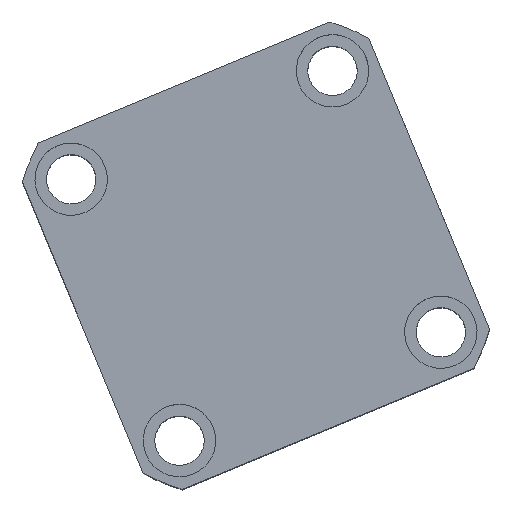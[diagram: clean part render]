
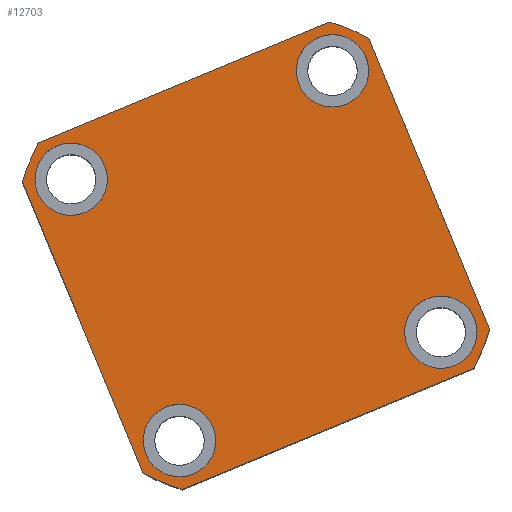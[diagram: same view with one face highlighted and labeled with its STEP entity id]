
A CAD part, top view. The second image highlights one B-rep face of the part: STEP entity #12703.
In plain terms, the highlighted planar face has unit normal (0, 0, 1) as drawn and (0, 0, -1) by its records, which use the part's own axes.
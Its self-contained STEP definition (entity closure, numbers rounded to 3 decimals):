
#51 = VERTEX_POINT ( 'NONE', #4359 ) ;
#120 = CARTESIAN_POINT ( 'NONE',  ( -54., 43., 0. ) ) ;
#354 = AXIS2_PLACEMENT_3D ( 'NONE', #8864, #13660, #6519 ) ;
#643 = DIRECTION ( 'NONE',  ( 1., 0., 0. ) ) ;
#843 = EDGE_CURVE ( 'NONE', #15231, #10546, #7830, .T. ) ;
#865 = VERTEX_POINT ( 'NONE', #120 ) ;
#907 = AXIS2_PLACEMENT_3D ( 'NONE', #12755, #5626, #13915 ) ;
#1021 = ORIENTED_EDGE ( 'NONE', *, *, #11784, .F. ) ;
#1203 = ORIENTED_EDGE ( 'NONE', *, *, #13399, .F. ) ;
#1340 = DIRECTION ( 'NONE',  ( 0., 0., 1. ) ) ;
#1587 = CARTESIAN_POINT ( 'NONE',  ( -54., -43., 0. ) ) ;
#1596 = LINE ( 'NONE', #8076, #10567 ) ;
#1611 = DIRECTION ( 'NONE',  ( 0., 0., -1. ) ) ;
#1657 = AXIS2_PLACEMENT_3D ( 'NONE', #14724, #7603, #643 ) ;
#1730 = CARTESIAN_POINT ( 'NONE',  ( -43., -43., 0. ) ) ;
#1859 = LINE ( 'NONE', #8081, #10819 ) ;
#1890 = DIRECTION ( 'NONE',  ( 0., 0., 1. ) ) ;
#1913 = CARTESIAN_POINT ( 'NONE',  ( 32., 43., 0. ) ) ;
#1950 = ORIENTED_EDGE ( 'NONE', *, *, #14813, .F. ) ;
#2035 = EDGE_LOOP ( 'NONE', ( #3112, #15002 ) ) ;
#2057 = FACE_OUTER_BOUND ( 'NONE', #11893, .T. ) ;
#2124 = ORIENTED_EDGE ( 'NONE', *, *, #14850, .F. ) ;
#2223 = CARTESIAN_POINT ( 'NONE',  ( -43., -43., 0. ) ) ;
#2394 = EDGE_CURVE ( 'NONE', #51, #10520, #8067, .T. ) ;
#2408 = FACE_BOUND ( 'NONE', #2035, .T. ) ;
#2685 = ORIENTED_EDGE ( 'NONE', *, *, #7379, .F. ) ;
#2691 = EDGE_LOOP ( 'NONE', ( #2685, #5816 ) ) ;
#3059 = CARTESIAN_POINT ( 'NONE',  ( 43., 43., 0. ) ) ;
#3112 = ORIENTED_EDGE ( 'NONE', *, *, #6868, .F. ) ;
#3154 = EDGE_LOOP ( 'NONE', ( #2124, #1021 ) ) ;
#3298 = CIRCLE ( 'NONE', #12049, 11. ) ;
#3403 = DIRECTION ( 'NONE',  ( -1., 0., 0. ) ) ;
#3407 = VERTEX_POINT ( 'NONE', #8620 ) ;
#3477 = CIRCLE ( 'NONE', #9170, 11. ) ;
#3508 = DIRECTION ( 'NONE',  ( 0., 0., -1. ) ) ;
#3517 = DIRECTION ( 'NONE',  ( 0., 1., 0. ) ) ;
#3664 = CARTESIAN_POINT ( 'NONE',  ( 43., -43., 0. ) ) ;
#4226 = DIRECTION ( 'NONE',  ( -1., 0., 0. ) ) ;
#4359 = CARTESIAN_POINT ( 'NONE',  ( 47.971, -57., 0. ) ) ;
#4582 = DIRECTION ( 'NONE',  ( 0., 0., 1. ) ) ;
#4629 = CARTESIAN_POINT ( 'NONE',  ( 0., 0., 0. ) ) ;
#4757 = CIRCLE ( 'NONE', #12533, 74.5 ) ;
#4820 = DIRECTION ( 'NONE',  ( -1., 0., 0. ) ) ;
#4887 = EDGE_LOOP ( 'NONE', ( #7597, #10391 ) ) ;
#4960 = AXIS2_PLACEMENT_3D ( 'NONE', #10509, #3508, #11719 ) ;
#4975 = CARTESIAN_POINT ( 'NONE',  ( -43., 43., 0. ) ) ;
#5000 = CARTESIAN_POINT ( 'NONE',  ( -47.971, 57., 0. ) ) ;
#5131 = FACE_BOUND ( 'NONE', #4887, .T. ) ;
#5317 = CIRCLE ( 'NONE', #1657, 74.5 ) ;
#5427 = VERTEX_POINT ( 'NONE', #6396 ) ;
#5470 = EDGE_CURVE ( 'NONE', #14060, #10685, #4757, .T. ) ;
#5566 = CARTESIAN_POINT ( 'NONE',  ( -57., 47.971, 0. ) ) ;
#5578 = AXIS2_PLACEMENT_3D ( 'NONE', #4629, #4582, #5703 ) ;
#5626 = DIRECTION ( 'NONE',  ( 0., 0., -1. ) ) ;
#5703 = DIRECTION ( 'NONE',  ( 1., 0., 0. ) ) ;
#5743 = CARTESIAN_POINT ( 'NONE',  ( -57., -47.971, 0. ) ) ;
#5764 = ORIENTED_EDGE ( 'NONE', *, *, #8740, .F. ) ;
#5816 = ORIENTED_EDGE ( 'NONE', *, *, #11058, .F. ) ;
#5921 = VERTEX_POINT ( 'NONE', #11372 ) ;
#6134 = DIRECTION ( 'NONE',  ( -1., 0., 0. ) ) ;
#6247 = VERTEX_POINT ( 'NONE', #5743 ) ;
#6316 = EDGE_CURVE ( 'NONE', #10520, #5921, #1859, .T. ) ;
#6396 = CARTESIAN_POINT ( 'NONE',  ( 32., -43., 0. ) ) ;
#6509 = DIRECTION ( 'NONE',  ( 0., 0., -1. ) ) ;
#6519 = DIRECTION ( 'NONE',  ( 1., 0., 0. ) ) ;
#6583 = CIRCLE ( 'NONE', #6701, 11. ) ;
#6701 = AXIS2_PLACEMENT_3D ( 'NONE', #3059, #11265, #4226 ) ;
#6788 = EDGE_CURVE ( 'NONE', #3407, #5427, #9334, .T. ) ;
#6868 = EDGE_CURVE ( 'NONE', #10546, #15231, #12133, .T. ) ;
#6891 = DIRECTION ( 'NONE',  ( 1., 0., 0. ) ) ;
#7271 = CARTESIAN_POINT ( 'NONE',  ( 54., 43., 0. ) ) ;
#7379 = EDGE_CURVE ( 'NONE', #865, #12820, #13075, .T. ) ;
#7481 = CARTESIAN_POINT ( 'NONE',  ( 47.971, 57., 0. ) ) ;
#7538 = DIRECTION ( 'NONE',  ( -1., 0., 0. ) ) ;
#7597 = ORIENTED_EDGE ( 'NONE', *, *, #11350, .F. ) ;
#7603 = DIRECTION ( 'NONE',  ( 0., 0., 1. ) ) ;
#7830 = CIRCLE ( 'NONE', #11696, 11. ) ;
#7897 = AXIS2_PLACEMENT_3D ( 'NONE', #8305, #1340, #9507 ) ;
#8002 = VECTOR ( 'NONE', #11930, 1000. ) ;
#8067 = CIRCLE ( 'NONE', #5578, 74.5 ) ;
#8076 = CARTESIAN_POINT ( 'NONE',  ( -57., -57., 0. ) ) ;
#8081 = CARTESIAN_POINT ( 'NONE',  ( 57., 57., 0. ) ) ;
#8122 = ORIENTED_EDGE ( 'NONE', *, *, #2394, .F. ) ;
#8221 = FACE_BOUND ( 'NONE', #3154, .T. ) ;
#8305 = CARTESIAN_POINT ( 'NONE',  ( 0., 0., 0. ) ) ;
#8403 = AXIS2_PLACEMENT_3D ( 'NONE', #13646, #6509, #14803 ) ;
#8497 = ORIENTED_EDGE ( 'NONE', *, *, #11413, .F. ) ;
#8620 = CARTESIAN_POINT ( 'NONE',  ( 54., -43., 0. ) ) ;
#8740 = EDGE_CURVE ( 'NONE', #10591, #14060, #9312, .T. ) ;
#8864 = CARTESIAN_POINT ( 'NONE',  ( 0., 0., 0. ) ) ;
#8886 = CARTESIAN_POINT ( 'NONE',  ( 0., 0., 0. ) ) ;
#8962 = VERTEX_POINT ( 'NONE', #1913 ) ;
#9170 = AXIS2_PLACEMENT_3D ( 'NONE', #4975, #13253, #6134 ) ;
#9312 = LINE ( 'NONE', #14658, #12892 ) ;
#9334 = CIRCLE ( 'NONE', #907, 11. ) ;
#9391 = ORIENTED_EDGE ( 'NONE', *, *, #13900, .F. ) ;
#9507 = DIRECTION ( 'NONE',  ( 1., 0., 0. ) ) ;
#10038 = PLANE ( 'NONE',  #354 ) ;
#10058 = DIRECTION ( 'NONE',  ( 1., 0., 0. ) ) ;
#10092 = CIRCLE ( 'NONE', #7897, 74.5 ) ;
#10246 = CARTESIAN_POINT ( 'NONE',  ( -32., 43., 0. ) ) ;
#10311 = AXIS2_PLACEMENT_3D ( 'NONE', #2223, #10398, #3403 ) ;
#10391 = ORIENTED_EDGE ( 'NONE', *, *, #6788, .F. ) ;
#10396 = VERTEX_POINT ( 'NONE', #7271 ) ;
#10398 = DIRECTION ( 'NONE',  ( 0., 0., -1. ) ) ;
#10509 = CARTESIAN_POINT ( 'NONE',  ( 43., 43., 0. ) ) ;
#10520 = VERTEX_POINT ( 'NONE', #13331 ) ;
#10546 = VERTEX_POINT ( 'NONE', #1587 ) ;
#10567 = VECTOR ( 'NONE', #6891, 1000. ) ;
#10591 = VERTEX_POINT ( 'NONE', #7481 ) ;
#10685 = VERTEX_POINT ( 'NONE', #5566 ) ;
#10819 = VECTOR ( 'NONE', #3517, 1000. ) ;
#11058 = EDGE_CURVE ( 'NONE', #12820, #865, #3477, .T. ) ;
#11164 = LINE ( 'NONE', #14274, #8002 ) ;
#11265 = DIRECTION ( 'NONE',  ( 0., 0., -1. ) ) ;
#11350 = EDGE_CURVE ( 'NONE', #5427, #3407, #3298, .T. ) ;
#11372 = CARTESIAN_POINT ( 'NONE',  ( 57., 47.971, 0. ) ) ;
#11413 = EDGE_CURVE ( 'NONE', #10685, #6247, #11164, .T. ) ;
#11696 = AXIS2_PLACEMENT_3D ( 'NONE', #1730, #1611, #12828 ) ;
#11719 = DIRECTION ( 'NONE',  ( -1., 0., 0. ) ) ;
#11784 = EDGE_CURVE ( 'NONE', #10396, #8962, #6583, .T. ) ;
#11878 = DIRECTION ( 'NONE',  ( 0., 0., -1. ) ) ;
#11893 = EDGE_LOOP ( 'NONE', ( #1203, #15112, #8122, #1950, #9391, #8497, #14440, #5764 ) ) ;
#11930 = DIRECTION ( 'NONE',  ( 0., -1., 0. ) ) ;
#12049 = AXIS2_PLACEMENT_3D ( 'NONE', #3664, #11878, #4820 ) ;
#12133 = CIRCLE ( 'NONE', #10311, 11. ) ;
#12533 = AXIS2_PLACEMENT_3D ( 'NONE', #8886, #1890, #10058 ) ;
#12703 = ADVANCED_FACE ( 'NONE', ( #2408, #5131, #8221, #14550, #2057 ), #10038, .F. ) ;
#12755 = CARTESIAN_POINT ( 'NONE',  ( 43., -43., 0. ) ) ;
#12799 = CARTESIAN_POINT ( 'NONE',  ( -47.971, -57., 0. ) ) ;
#12820 = VERTEX_POINT ( 'NONE', #10246 ) ;
#12828 = DIRECTION ( 'NONE',  ( -1., 0., 0. ) ) ;
#12892 = VECTOR ( 'NONE', #7538, 1000. ) ;
#12962 = VERTEX_POINT ( 'NONE', #12799 ) ;
#13075 = CIRCLE ( 'NONE', #8403, 11. ) ;
#13180 = CARTESIAN_POINT ( 'NONE',  ( -32., -43., 0. ) ) ;
#13253 = DIRECTION ( 'NONE',  ( 0., 0., -1. ) ) ;
#13331 = CARTESIAN_POINT ( 'NONE',  ( 57., -47.971, 0. ) ) ;
#13390 = CIRCLE ( 'NONE', #4960, 11. ) ;
#13399 = EDGE_CURVE ( 'NONE', #5921, #10591, #5317, .T. ) ;
#13646 = CARTESIAN_POINT ( 'NONE',  ( -43., 43., 0. ) ) ;
#13660 = DIRECTION ( 'NONE',  ( 0., 0., 1. ) ) ;
#13900 = EDGE_CURVE ( 'NONE', #6247, #12962, #10092, .T. ) ;
#13915 = DIRECTION ( 'NONE',  ( -1., 0., 0. ) ) ;
#14060 = VERTEX_POINT ( 'NONE', #5000 ) ;
#14274 = CARTESIAN_POINT ( 'NONE',  ( -57., 57., 0. ) ) ;
#14440 = ORIENTED_EDGE ( 'NONE', *, *, #5470, .F. ) ;
#14550 = FACE_BOUND ( 'NONE', #2691, .T. ) ;
#14658 = CARTESIAN_POINT ( 'NONE',  ( -57., 57., 0. ) ) ;
#14724 = CARTESIAN_POINT ( 'NONE',  ( 0., 0., 0. ) ) ;
#14803 = DIRECTION ( 'NONE',  ( -1., 0., 0. ) ) ;
#14813 = EDGE_CURVE ( 'NONE', #12962, #51, #1596, .T. ) ;
#14850 = EDGE_CURVE ( 'NONE', #8962, #10396, #13390, .T. ) ;
#15002 = ORIENTED_EDGE ( 'NONE', *, *, #843, .F. ) ;
#15112 = ORIENTED_EDGE ( 'NONE', *, *, #6316, .F. ) ;
#15231 = VERTEX_POINT ( 'NONE', #13180 ) ;
